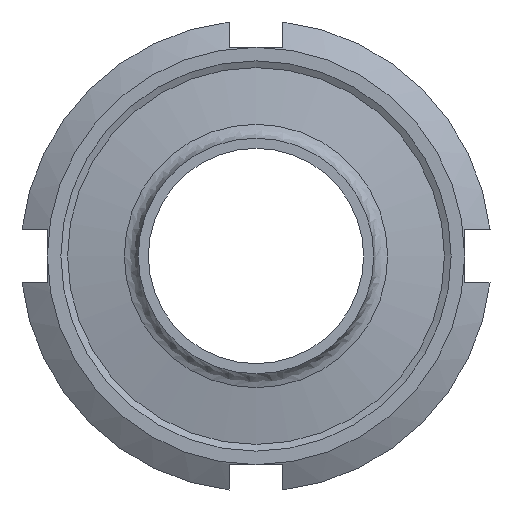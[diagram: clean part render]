
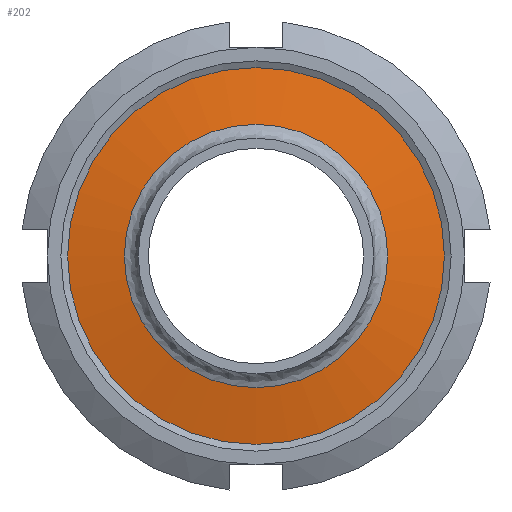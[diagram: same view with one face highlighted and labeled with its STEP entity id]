
A CAD part, front view. The second image highlights one B-rep face of the part: STEP entity #202.
In plain terms, the highlighted conical face has half-angle 80 degrees and reference radius 23.25 mm.
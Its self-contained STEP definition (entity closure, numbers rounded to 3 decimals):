
#160=CARTESIAN_POINT('',(19.566,-3.143,0.0));
#161=VERTEX_POINT('',#160);
#162=CARTESIAN_POINT('',(0.0,-3.143,0.));
#163=DIRECTION('',(0.0,-1.0,0.0));
#164=DIRECTION('',(-1.0,0.0,0.0));
#165=AXIS2_PLACEMENT_3D('',#162,#163,#164);
#166=CIRCLE('',#165,19.566);
#167=EDGE_CURVE('',#161,#161,#166,.T.);
#183=CARTESIAN_POINT('',(0.0,-2.493,0.0));
#184=DIRECTION('',(0.0,1.0,0.0));
#185=DIRECTION('',(1.0,0.0,0.0));
#186=AXIS2_PLACEMENT_3D('',#183,#184,#185);
#187=CONICAL_SURFACE('',#186,23.25,80.);
#188=CARTESIAN_POINT('',(29.,-1.479,0.0));
#189=VERTEX_POINT('',#188);
#190=CARTESIAN_POINT('',(0.0,-1.479,0.0));
#191=DIRECTION('',(0.0,-1.0,0.0));
#192=DIRECTION('',(1.0,0.0,0.0));
#193=AXIS2_PLACEMENT_3D('',#190,#191,#192);
#194=CIRCLE('',#193,29.);
#195=EDGE_CURVE('',#189,#189,#194,.T.);
#196=ORIENTED_EDGE('',*,*,#195,.T.);
#197=EDGE_LOOP('',(#196));
#198=FACE_OUTER_BOUND('',#197,.T.);
#199=ORIENTED_EDGE('',*,*,#167,.F.);
#200=EDGE_LOOP('',(#199));
#201=FACE_BOUND('',#200,.T.);
#202=ADVANCED_FACE('',(#198,#201),#187,.T.);
